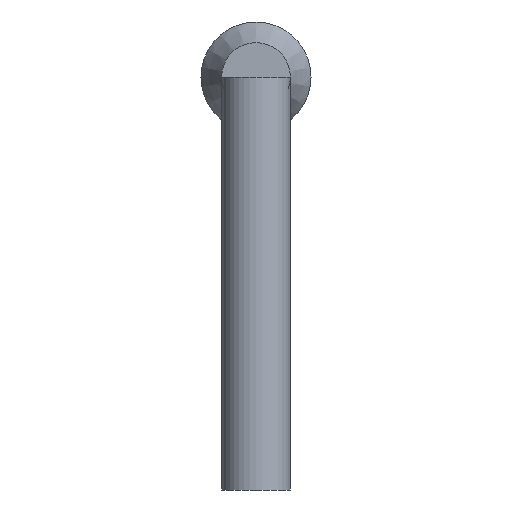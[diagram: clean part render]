
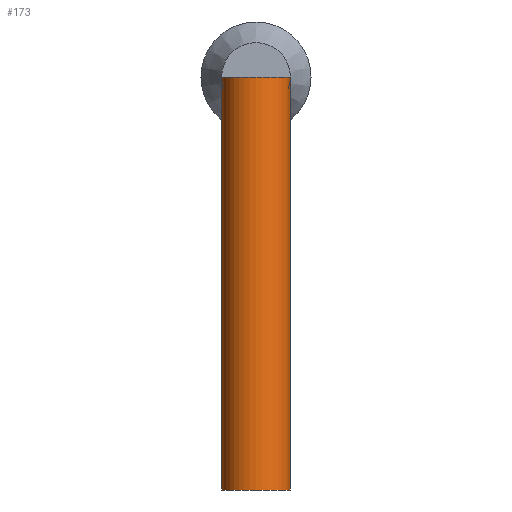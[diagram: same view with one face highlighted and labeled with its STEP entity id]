
A CAD part, left-side view. The second image highlights one B-rep face of the part: STEP entity #173.
In plain terms, the highlighted cylindrical face has radius 0.25 mm (diameter 0.5 mm), a full revolution.
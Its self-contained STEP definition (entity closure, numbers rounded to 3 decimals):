
#173 = ADVANCED_FACE('',(#174),#201,.T.);
#174 = FACE_BOUND('',#175,.T.);
#175 = EDGE_LOOP('',(#176,#185,#193,#200));
#176 = ORIENTED_EDGE('',*,*,#177,.F.);
#177 = EDGE_CURVE('',#178,#178,#180,.T.);
#178 = VERTEX_POINT('',#179);
#179 = CARTESIAN_POINT('',(-10.41,0.,-3.));
#180 = CIRCLE('',#181,0.25);
#181 = AXIS2_PLACEMENT_3D('',#182,#183,#184);
#182 = CARTESIAN_POINT('',(-10.16,0.,-3.));
#183 = DIRECTION('',(0.,0.,-1.));
#184 = DIRECTION('',(-1.,0.,-0.));
#185 = ORIENTED_EDGE('',*,*,#186,.F.);
#186 = EDGE_CURVE('',#187,#178,#189,.T.);
#187 = VERTEX_POINT('',#188);
#188 = CARTESIAN_POINT('',(-10.41,0.,0.));
#189 = LINE('',#190,#191);
#190 = CARTESIAN_POINT('',(-10.41,0.,0.));
#191 = VECTOR('',#192,1.);
#192 = DIRECTION('',(0.,0.,-1.));
#193 = ORIENTED_EDGE('',*,*,#194,.T.);
#194 = EDGE_CURVE('',#187,#187,#195,.T.);
#195 = CIRCLE('',#196,0.25);
#196 = AXIS2_PLACEMENT_3D('',#197,#198,#199);
#197 = CARTESIAN_POINT('',(-10.16,0.,0.));
#198 = DIRECTION('',(0.,0.,-1.));
#199 = DIRECTION('',(-1.,0.,-0.));
#200 = ORIENTED_EDGE('',*,*,#186,.T.);
#201 = CYLINDRICAL_SURFACE('',#202,0.25);
#202 = AXIS2_PLACEMENT_3D('',#203,#204,#205);
#203 = CARTESIAN_POINT('',(-10.16,0.,0.));
#204 = DIRECTION('',(0.,0.,-1.));
#205 = DIRECTION('',(-1.,0.,-0.));
